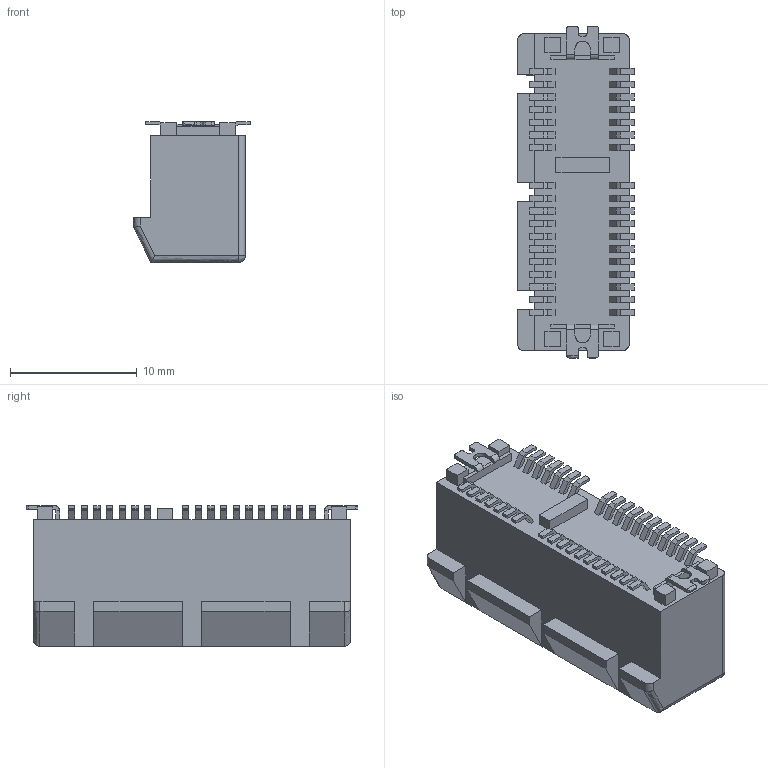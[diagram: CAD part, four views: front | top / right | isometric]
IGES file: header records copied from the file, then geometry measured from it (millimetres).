
Start section: SolidWorks IGES file using analytic representation for surfaces
Global section: file name: F:\UMaxcoonͼֽ\3Dͼֽ\3113-3D\3113-X1\C-3166-X1\3166-36PIN.IGS; native system: SolidWorks 2008; preprocessor: SolidWorks 2008; author: Wang; date: 201110.172454; units: millimetre
Bounding box: 9.2 x 26.2 x 11.1 mm (x, y, z)
Surface area: 1690.5 mm2 (no closed solid volume)
Topology: 0 solids, 0 shells, 681 faces, 4362 edges, 4360 vertices
Faces by surface type: bspline 577, revolution 104
